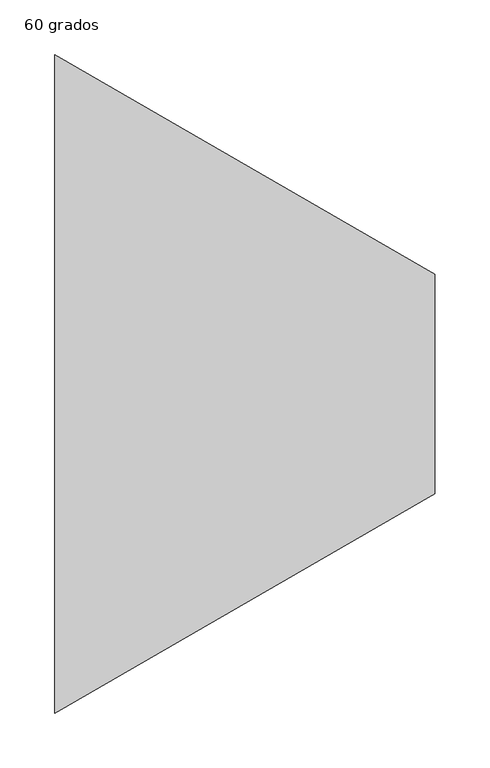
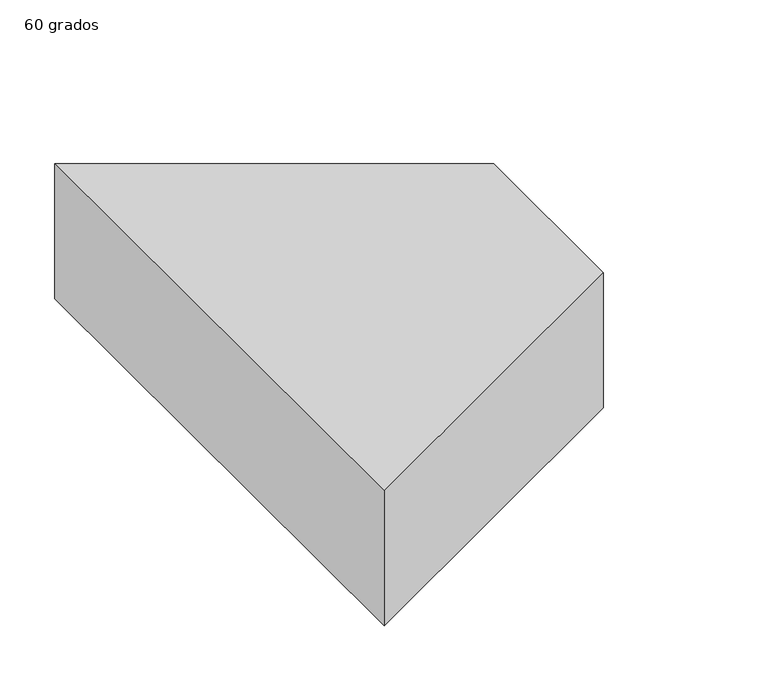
"""IFC4 building model written with IfcOpenShell, lengths in millimetres: duct fitting geometry, M_Transición rectangular - Ángulo : 60 grados."""

import ifcopenshell
import ifcopenshell.guid

model = None  # the IFC model being written
_history = None  # IfcOwnerHistory: only IFC2X3 demands one
_inside = {}  # id of a spatial element -> (the spatial element, [elements in it])
_under = {}  # id of a project, library or spatial element -> (it, [spatial elements below it])
_declared = {}  # id of a project -> (the project, [libraries it declares])
_typed = {}  # id of a type object -> (the type object, [elements of that type])
_made_of = {}  # id of a material, layer set ... -> (it, [elements and type objects made of it])


def new_model(schema):
    """Start an empty IFC model of exactly this schema.

    Asked for "IFC4X3", IfcOpenShell would pick the latest addendum, in which some entities
    have other attributes; the version numbers below select the first issue.
    IFC2X3 requires an IfcOwnerHistory on every rooted entity: one is made here for all.
    """
    global model, _history
    if schema == "IFC4X3":
        model = ifcopenshell.file(schema_version=(4, 3, 0, 0))
    else:
        model = ifcopenshell.file(schema=schema)
    _inside.clear()
    _under.clear()
    _declared.clear()
    _typed.clear()
    _made_of.clear()
    _history = None
    if model.schema == "IFC2X3":
        org = make("IfcOrganization", Name="unknown")
        user = make(
            "IfcPersonAndOrganization",
            ThePerson=make("IfcPerson", FamilyName="unknown"),
            TheOrganization=org,
        )
        app = make(
            "IfcApplication",
            ApplicationDeveloper=org,
            Version="unknown",
            ApplicationFullName="unknown",
            ApplicationIdentifier="unknown",
        )
        _history = make(
            "IfcOwnerHistory",
            OwningUser=user,
            OwningApplication=app,
            ChangeAction="ADDED",
            CreationDate=0,
        )
    return model


def make(cls, **values):
    """One entity of the class cls with the attributes given. An attribute that is None is left unset."""
    return model.create_entity(
        cls, **{name: value for name, value in values.items() if value is not None}
    )


def rooted(cls, **values):
    """An entity with a GlobalId (a new one), such as an element, a storey or a relation."""
    return make(cls, GlobalId=ifcopenshell.guid.new(), OwnerHistory=_history, **values)


def si_unit(unit_type, name, prefix=None):
    """IfcSIUnit, for example si_unit("LENGTHUNIT", "METRE", prefix="MILLI")."""
    return make("IfcSIUnit", UnitType=unit_type, Prefix=prefix, Name=name)


def assignment(units):
    """IfcUnitAssignment: the units of a project."""
    return None if units is None else make("IfcUnitAssignment", Units=units)


def point(xyz):
    """IfcCartesianPoint."""
    return None if xyz is None else make("IfcCartesianPoint", Coordinates=xyz)


def direction(xyz):
    """IfcDirection."""
    return None if xyz is None else make("IfcDirection", DirectionRatios=xyz)


def frame(location, z_axis=None, x_axis=None):
    """IfcAxis2Placement3D, a coordinate frame: its origin and axes. An axis left out is left unset."""
    return make(
        "IfcAxis2Placement3D",
        Location=point(location),
        Axis=direction(z_axis),
        RefDirection=direction(x_axis),
    )


def origin():
    """The frame at (0, 0, 0) with its axes left unset."""
    return frame((0.0, 0.0, 0.0))


def place(relative_to, where):
    """IfcLocalPlacement: puts the frame where relative to a parent placement (None: the world)."""
    return make(
        "IfcLocalPlacement", PlacementRelTo=relative_to, RelativePlacement=where
    )


def context(
    kind, dimensions, precision=None, world=None, true_north=None, identifier=None
):
    """IfcGeometricRepresentationContext, for example the 3D "Model" context."""
    return make(
        "IfcGeometricRepresentationContext",
        ContextIdentifier=identifier,
        ContextType=kind,
        CoordinateSpaceDimension=dimensions,
        Precision=precision,
        WorldCoordinateSystem=world,
        TrueNorth=true_north,
    )


def project(units=None, contexts=None):
    """IfcProject with its units and contexts."""
    return rooted(
        "IfcProject",
        Name="project",
        RepresentationContexts=contexts,
        UnitsInContext=assignment(units),
    )


def spatial(cls, under=None, at=None, **own):
    """A site, building, storey or space (cls), placed at a placement, below another one or the project."""
    s = rooted(cls, ObjectPlacement=at, **own)
    if under is not None:
        _under.setdefault(under.id(), (under, []))[1].append(s)
    return s


def polyline(points):
    """IfcPolyline through the points."""
    return make("IfcPolyline", Points=[point(p) for p in points])


def outline(outer, holes=None, kind="AREA"):
    """IfcArbitraryClosedProfileDef: a profile drawn as a closed curve; with holes, ...WithVoids."""
    if holes is None:
        return make("IfcArbitraryClosedProfileDef", ProfileType=kind, OuterCurve=outer)
    return make(
        "IfcArbitraryProfileDefWithVoids",
        ProfileType=kind,
        OuterCurve=outer,
        InnerCurves=holes,
    )


def extrude(swept, where, along, depth):
    """IfcExtrudedAreaSolid: the profile swept, set in the frame where, extruded along a direction by depth."""
    return make(
        "IfcExtrudedAreaSolid",
        SweptArea=swept,
        Position=where,
        ExtrudedDirection=direction(along),
        Depth=depth,
    )


def shape(context_of_items, identifier, shape_type, items):
    """IfcShapeRepresentation: the items that make up one representation, for example the "Body"."""
    return make(
        "IfcShapeRepresentation",
        ContextOfItems=context_of_items,
        RepresentationIdentifier=identifier,
        RepresentationType=shape_type,
        Items=items,
    )


def source(mapping_origin, context_of_items, identifier, shape_type, items):
    """IfcRepresentationMap: a shape defined once, which mapped items show again and again."""
    return make(
        "IfcRepresentationMap",
        MappingOrigin=mapping_origin,
        MappedRepresentation=shape(context_of_items, identifier, shape_type, items),
    )


def transform(
    local_origin,
    x_axis=None,
    y_axis=None,
    z_axis=None,
    scale=None,
    scale2=None,
    scale3=None,
    uniform=True,
):
    """IfcCartesianTransformationOperator3D, or its non-uniform kind. x_axis, y_axis, z_axis: its Axis1, 2, 3."""
    if uniform:
        return make(
            "IfcCartesianTransformationOperator3D",
            Axis1=direction(x_axis),
            Axis2=direction(y_axis),
            LocalOrigin=point(local_origin),
            Scale=scale,
            Axis3=direction(z_axis),
        )
    return make(
        "IfcCartesianTransformationOperator3DnonUniform",
        Axis1=direction(x_axis),
        Axis2=direction(y_axis),
        LocalOrigin=point(local_origin),
        Scale=scale,
        Axis3=direction(z_axis),
        Scale2=scale2,
        Scale3=scale3,
    )


def mapped(mapping_source, mapping_target):
    """IfcMappedItem: shows the shape of a source again, moved by a transform."""
    return make(
        "IfcMappedItem", MappingSource=mapping_source, MappingTarget=mapping_target
    )


def made_of(thing, what):
    """Note that an element or type object is made of a material, layer set ...; save() writes the relation."""
    if what is not None:
        _made_of.setdefault(what.id(), (what, []))[1].append(thing)
    return thing


def element(
    cls,
    number,
    at=None,
    inside=None,
    cuts=None,
    type_object=None,
    material=None,
    context=None,
    identifier="Body",
    shape_type=None,
    held_by="IfcProductDefinitionShape",
    body=None,
    shapes=None,
    **own,
):
    """One element of the class cls, such as IfcWall. Its Tag is "e" and its number.

    at: its placement. inside: the storey or other place that contains it. cuts: it is an
    opening in that element (IfcRelVoidsElement). A single representation is given by context,
    identifier, shape_type and body (its items); several are given by shapes. held_by: the class
    of the entity that holds the representations. save() writes the other relations.
    """
    e = rooted(cls, Tag="e%d" % number, ObjectPlacement=at, **own)
    if body is not None:
        shapes = [shape(context, identifier, shape_type, body)]
    if shapes is not None:
        e.Representation = make(held_by, Representations=shapes)
    if inside is not None:
        _inside.setdefault(inside.id(), (inside, []))[1].append(e)
    if cuts is not None:
        rooted(
            "IfcRelVoidsElement", RelatingBuildingElement=cuts, RelatedOpeningElement=e
        )
    if type_object is not None:
        _typed.setdefault(type_object.id(), (type_object, []))[1].append(e)
    return made_of(e, material)


def aggregate(whole, parts):
    """IfcRelAggregates: a whole, such as a stair, and the parts it consists of."""
    return rooted("IfcRelAggregates", RelatingObject=whole, RelatedObjects=parts)


def save(model, path):
    """Write the relations noted so far, then the file.

    IfcRelAggregates (storeys below a building ...), IfcRelContainedInSpatialStructure (elements
    in a storey), IfcRelDefinesByType, IfcRelAssociatesMaterial and IfcRelDeclares: one each for
    every whole, place, type object, material and project.
    """
    for whole, parts in _under.values():
        aggregate(whole, parts)
    for where, things in _inside.values():
        rooted(
            "IfcRelContainedInSpatialStructure",
            RelatedElements=things,
            RelatingStructure=where,
        )
    for kind, things in _typed.values():
        rooted("IfcRelDefinesByType", RelatedObjects=things, RelatingType=kind)
    for what, things in _made_of.values():
        rooted("IfcRelAssociatesMaterial", RelatedObjects=things, RelatingMaterial=what)
    for by, libraries in _declared.values():
        rooted("IfcRelDeclares", RelatingContext=by, RelatedDefinitions=libraries)
    model.write(path)


def duct_fitting_60_grados_9131c8d7(model_context):
    return source(origin(), model_context, "Body", "SweptSolid", [
        extrude(outline(polyline([(0.0, -300.0), (0.0, 300.0), (346.4101615, 100.0), (346.4101615, -100.0), (0.0, -300.0)])), frame((0.0, 0.0, -75.0), z_axis=(0.0, 0.0, 1.0), x_axis=(1.0, 0.0, 0.0)), (0.0, 0.0, 1.0), 150.0),
    ])


if __name__ == "__main__":
    model = new_model("IFC4")
    model_context = context("Model", 3, world=origin())
    ifc_project = project(units=[si_unit("LENGTHUNIT", "METRE", prefix="MILLI")], contexts=[model_context])
    site = spatial("IfcSite", under=ifc_project)
    building = spatial("IfcBuilding", under=site)
    placement = place(None, origin())
    duct_fitting_60_grados_shape = duct_fitting_60_grados_9131c8d7(model_context)
    element("IfcDuctFitting", 1, ObjectType="M_Transición rectangular - Ángulo : 60 grados", at=placement, inside=building, context=model_context, shape_type="MappedRepresentation", body=[
        mapped(duct_fitting_60_grados_shape, transform((0.0, 0.0, 0.0), x_axis=(1.0, 0.0, 0.0), y_axis=(0.0, 1.0, 0.0), z_axis=(0.0, 0.0, 1.0))),
    ])
    save(model, "model.ifc")
